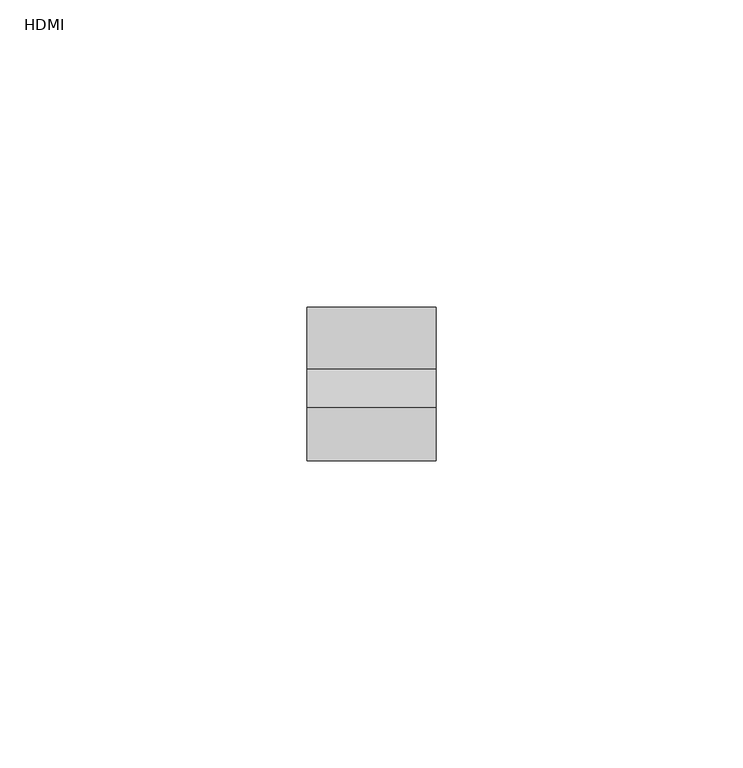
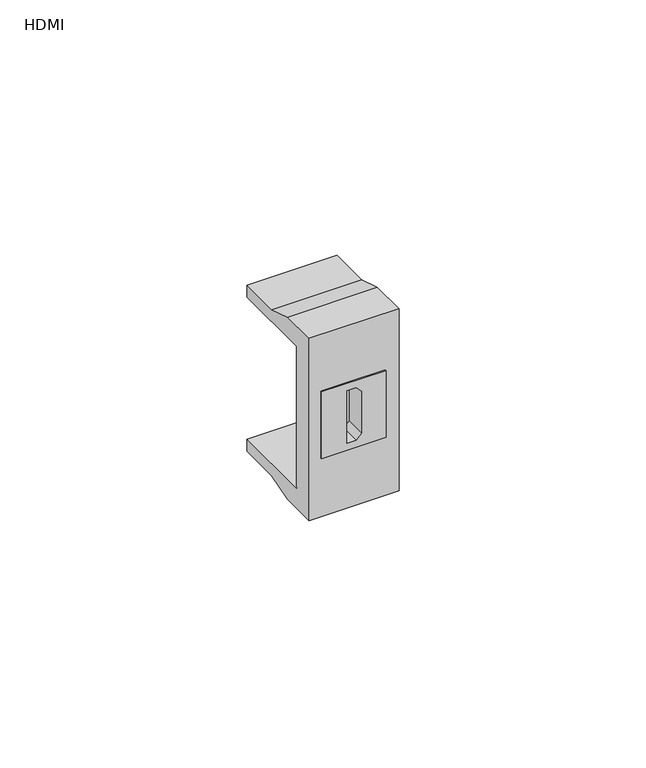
"""IFC4 building model written with IfcOpenShell, lengths in millimetres: proxy geometry, КНС_МультимедийныеРозеткиHDMIиUSB_DKC : HDMI."""

from ifc_helpers import new_model, si_unit, origin, place, context, project, spatial, faceted_brep, source, transform, mapped, element, save


def hdmi_d8834771(model_context):
    return source(origin(), model_context, "Body", "Brep", [
        faceted_brep([(7.5, -25.0, 8.25), (-7.5, -25.0, 8.25), (-7.5, -25.0, -8.25), (7.5, -25.0, -8.25), (-1.5914527, -25.0, 6.436967), (0.5241099, -25.0, 6.436967), (1.7681536, -25.0, 5.1929232), (1.7681536, -25.0, -5.1929232), (0.5241099, -25.0, -6.436967), (-1.5914527, -25.0, -6.436967), (7.5, -16.2913439, 8.25), (7.5, -16.2913439, -8.25), (-7.5, -16.2913439, -8.25), (-7.5, -16.2913439, 8.25), (0.5241099, -20.0, 6.436967), (-1.5914527, -20.0, 6.436967), (-1.5914527, -20.0, -6.436967), (0.5241099, -20.0, -6.436967), (1.7681536, -20.0, -5.1929232), (1.7681536, -20.0, 5.1929232)], [[[0, 1, 2, 3], [4, 5, 6, 7, 8, 9]], [[10, 11, 12, 13]], [[1, 0, 10, 13]], [[2, 1, 13, 12]], [[3, 2, 12, 11]], [[0, 3, 11, 10]], [[14, 15, 16, 17, 18, 19]], [[15, 14, 5, 4]], [[16, 15, 4, 9]], [[17, 16, 9, 8]], [[18, 17, 8, 7]], [[19, 18, 7, 6]], [[14, 19, 6, 5]]]),
        faceted_brep([(-10.5, -20.0, -17.5), (10.5, -20.0, -17.5), (10.5, 0.0, -17.5), (-10.5, 0.0, -17.5), (10.5, -20.0, 17.5), (-10.5, -20.0, 17.5), (-10.5, 0.0, 17.5), (10.5, 0.0, 17.5), (7.5, -20.0, -8.25), (7.5, -20.0, 8.25), (-7.5, -20.0, 8.25), (-7.5, -20.0, -8.25), (-10.5, -10.0, 20.5), (10.5, -10.0, 20.5), (10.5, 0.0, 20.5), (-10.5, 0.0, 20.5), (-10.5, -16.2913439, 22.5), (10.5, -16.2913439, 22.5), (10.5, -10.0, -20.5), (-10.5, -10.0, -20.5), (-10.5, 0.0, -20.5), (10.5, 0.0, -20.5), (10.5, -16.2913439, -22.5), (-10.5, -16.2913439, -22.5), (10.5, -25.0, 22.5), (-10.5, -25.0, 22.5), (-10.5, -25.0, -22.5), (10.5, -25.0, -22.5), (7.5, -25.0, 8.25), (7.5, -25.0, -8.25), (-7.5, -25.0, -8.25), (-7.5, -25.0, 8.25)], [[[0, 1, 2, 3]], [[4, 5, 6, 7]], [[1, 0, 5, 4], [8, 9, 10, 11]], [[12, 13, 14, 15]], [[13, 12, 16, 17]], [[18, 19, 20, 21]], [[19, 18, 22, 23]], [[24, 25, 26, 27], [28, 29, 30, 31]], [[14, 7, 6, 15]], [[2, 21, 20, 3]], [[25, 24, 17, 16]], [[26, 25, 16, 12, 15, 6, 5, 0, 3, 20, 19, 23]], [[27, 26, 23, 22]], [[24, 27, 22, 18, 21, 2, 1, 4, 7, 14, 13, 17]], [[29, 28, 9, 8]], [[30, 29, 8, 11]], [[31, 30, 11, 10]], [[28, 31, 10, 9]]]),
    ])


if __name__ == "__main__":
    model = new_model("IFC4")
    model_context = context("Model", 3, world=origin())
    ifc_project = project(units=[si_unit("LENGTHUNIT", "METRE", prefix="MILLI")], contexts=[model_context])
    site = spatial("IfcSite", under=ifc_project)
    building = spatial("IfcBuilding", under=site)
    placement = place(None, origin())
    hdmi_shape = hdmi_d8834771(model_context)
    element("IfcBuildingElementProxy", 1, Name="КНС_МультимедийныеРозеткиHDMIиUSB_DKC : HDMI", ObjectType="КНС_МультимедийныеРозеткиHDMIиUSB_DKC : HDMI", at=placement, inside=building, context=model_context, shape_type="MappedRepresentation", body=[
        mapped(hdmi_shape, transform((0.0, 0.0, 0.0), x_axis=(1.0, 0.0, 0.0), y_axis=(0.0, 1.0, 0.0), z_axis=(0.0, 0.0, 1.0))),
    ])
    save(model, "model.ifc")
